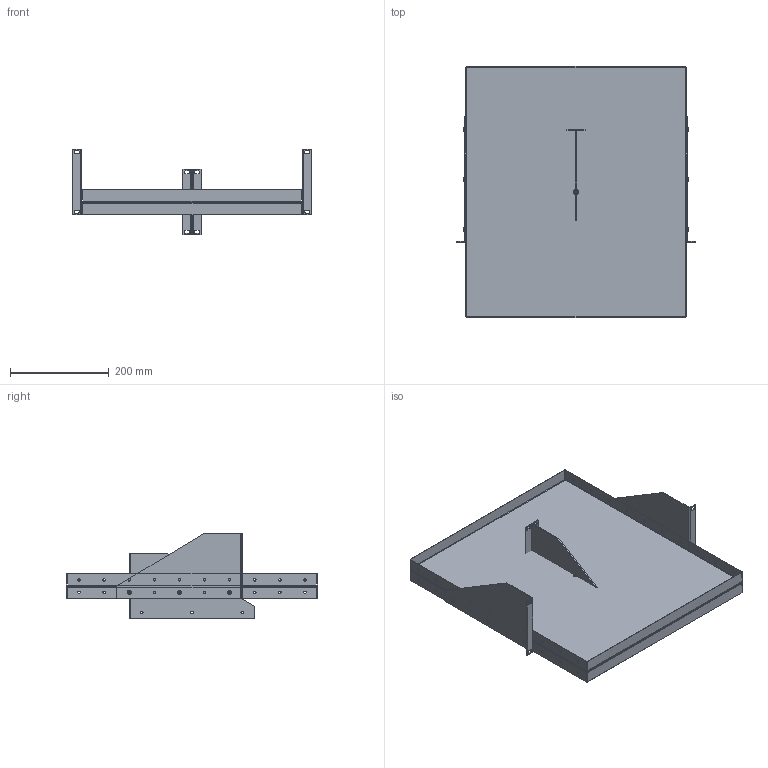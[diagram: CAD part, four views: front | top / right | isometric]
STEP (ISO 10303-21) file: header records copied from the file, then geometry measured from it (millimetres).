
FILE_DESCRIPTION( ( 'Unknown' ), '1' );
FILE_NAME( 'Q:/ACCESSORIES/SHELVES/DNR/WEB DRAWINGS/STEP/DNRMA1920.stp', 'Unknown', ( 'Unknown' ), ( 'Unknown' ), 'PSStep 10.1', 'Unknown', ' ' );
FILE_SCHEMA( ( 'AUTOMOTIVE_DESIGN { 1 0 10303 214 1 1 1 1 }' ) );
Length unit declared in the file: millimetre
Products named in the file (6): Assem1; COM54794; COM54795; COM54791; SCS18603; NTS16450
Bounding box: 482.6 x 508 x 173.41 mm (x, y, z)
Volume: 976767.1 mm3; surface area: 1307030.8 mm2
Topology: 20 solids, 20 shells, 482 faces, 1152 edges, 717 vertices
Faces by surface type: plane 313, cylinder 120, cone 42, bspline 7
Full cylindrical faces by diameter (mm): 3.307 x7, 4.166 x7, 4.978 x52, 7.798 x7, 9.347 x7
Entity records: 4828 total; most frequent: CARTESIAN_POINT 833, DIRECTION 704, ORIENTED_EDGE 614, EDGE_CURVE 307, AXIS2_PLACEMENT_3D 268, EDGE_LOOP 230, VERTEX_POINT 213, LINE 168
